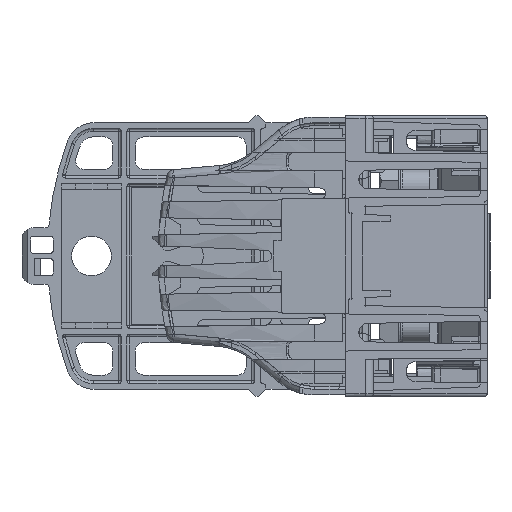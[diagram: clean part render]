
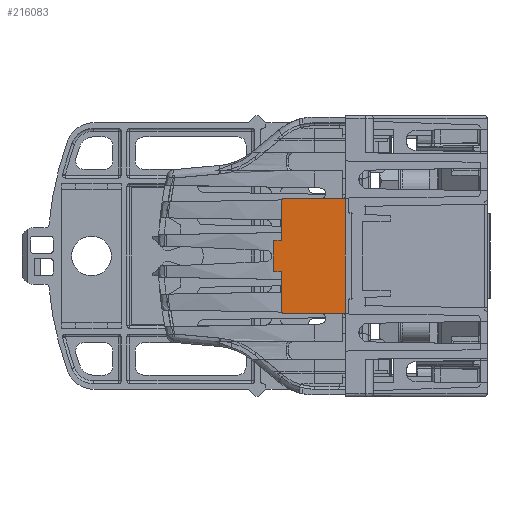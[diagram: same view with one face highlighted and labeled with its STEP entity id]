
A CAD part, left-side view. The second image highlights one B-rep face of the part: STEP entity #216083.
In plain terms, the highlighted planar face has unit normal (-1, 0, 0).
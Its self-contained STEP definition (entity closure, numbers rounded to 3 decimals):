
#64497 = CARTESIAN_POINT ( 'NONE',  ( -279.5, 22.4, -19.709 ) ) ;
#64872 = VERTEX_POINT ( 'NONE', #276277 ) ;
#64944 = VERTEX_POINT ( 'NONE', #276343 ) ;
#64959 = VERTEX_POINT ( 'NONE', #276351 ) ;
#64969 = VERTEX_POINT ( 'NONE', #276363 ) ;
#64981 = VERTEX_POINT ( 'NONE', #276374 ) ;
#65005 = VERTEX_POINT ( 'NONE', #276395 ) ;
#65012 = VERTEX_POINT ( 'NONE', #276403 ) ;
#65053 = VERTEX_POINT ( 'NONE', #276438 ) ;
#65061 = VERTEX_POINT ( 'NONE', #276445 ) ;
#65065 = VERTEX_POINT ( 'NONE', #276448 ) ;
#65425 = VERTEX_POINT ( 'NONE', #276775 ) ;
#65507 = VERTEX_POINT ( 'NONE', #276847 ) ;
#80512 = ORIENTED_EDGE ( 'NONE', *, *, #211720, .F. ) ;
#80514 = ORIENTED_EDGE ( 'NONE', *, *, #211724, .T. ) ;
#80518 = ORIENTED_EDGE ( 'NONE', *, *, #211728, .T. ) ;
#80523 = ORIENTED_EDGE ( 'NONE', *, *, #211731, .T. ) ;
#80527 = ORIENTED_EDGE ( 'NONE', *, *, #301927, .F. ) ;
#80531 = ORIENTED_EDGE ( 'NONE', *, *, #211733, .T. ) ;
#80532 = ORIENTED_EDGE ( 'NONE', *, *, #211738, .F. ) ;
#80535 = ORIENTED_EDGE ( 'NONE', *, *, #211742, .T. ) ;
#80538 = ORIENTED_EDGE ( 'NONE', *, *, #293330, .F. ) ;
#80542 = ORIENTED_EDGE ( 'NONE', *, *, #211746, .F. ) ;
#80545 = ORIENTED_EDGE ( 'NONE', *, *, #211750, .T. ) ;
#80549 = ORIENTED_EDGE ( 'NONE', *, *, #211754, .F. ) ;
#80552 = ORIENTED_EDGE ( 'NONE', *, *, #211756, .T. ) ;
#80555 = ORIENTED_EDGE ( 'NONE', *, *, #211760, .F. ) ;
#80560 = ORIENTED_EDGE ( 'NONE', *, *, #211764, .F. ) ;
#80563 = ORIENTED_EDGE ( 'NONE', *, *, #211767, .F. ) ;
#110236 = FACE_OUTER_BOUND ( 'NONE', #273482, .T. ) ;
#110521 = PLANE ( 'NONE',  #210840 ) ;
#110573 = CARTESIAN_POINT ( 'NONE',  ( -279.5, -50., 0. ) ) ;
#110577 = DIRECTION ( 'NONE',  ( -1., 0., 0. ) ) ;
#110582 = DIRECTION ( 'NONE',  ( 0., 0., 1. ) ) ;
#116303 = VECTOR ( 'NONE', #188468, 1000. ) ;
#134144 = VECTOR ( 'NONE', #138881, 1000. ) ;
#138875 = LINE ( 'NONE', #138878, #134144 ) ;
#138878 = CARTESIAN_POINT ( 'NONE',  ( -279.5, 0., 0. ) ) ;
#138881 = DIRECTION ( 'NONE',  ( 0., 0., -1. ) ) ;
#154008 = CARTESIAN_POINT ( 'NONE',  ( -279.5, 0., 20.896 ) ) ;
#154042 = CARTESIAN_POINT ( 'NONE',  ( -279.5, 0., -20.896 ) ) ;
#154179 = CARTESIAN_POINT ( 'NONE',  ( -279.5, 22.4, -6. ) ) ;
#188464 = LINE ( 'NONE', #188466, #116303 ) ;
#188466 = CARTESIAN_POINT ( 'NONE',  ( -279.5, 22.4, 0. ) ) ;
#188468 = DIRECTION ( 'NONE',  ( 0., 0., 1. ) ) ;
#210840 = AXIS2_PLACEMENT_3D ( 'NONE', #110573, #110577, #110582 ) ;
#211720 = EDGE_CURVE ( 'NONE', #65425, #64872, #236270, .T. ) ;
#211724 = EDGE_CURVE ( 'NONE', #65425, #65065, #229698, .T. ) ;
#211728 = EDGE_CURVE ( 'NONE', #65065, #65061, #236288, .T. ) ;
#211731 = EDGE_CURVE ( 'NONE', #65061, #278817, #229716, .T. ) ;
#211733 = EDGE_CURVE ( 'NONE', #277235, #65507, #229720, .T. ) ;
#211738 = EDGE_CURVE ( 'NONE', #65012, #65507, #236301, .T. ) ;
#211742 = EDGE_CURVE ( 'NONE', #65012, #278483, #229709, .T. ) ;
#211746 = EDGE_CURVE ( 'NONE', #64944, #278426, #229739, .T. ) ;
#211750 = EDGE_CURVE ( 'NONE', #64944, #64969, #236332, .T. ) ;
#211754 = EDGE_CURVE ( 'NONE', #65053, #64969, #229751, .T. ) ;
#211756 = EDGE_CURVE ( 'NONE', #65053, #64981, #236343, .T. ) ;
#211760 = EDGE_CURVE ( 'NONE', #64959, #64981, #229760, .T. ) ;
#211764 = EDGE_CURVE ( 'NONE', #65005, #64959, #236359, .T. ) ;
#211767 = EDGE_CURVE ( 'NONE', #64872, #65005, #229735, .T. ) ;
#216083 = ADVANCED_FACE ( 'NONE', ( #110236 ), #110521, .T. ) ;
#229692 = VECTOR ( 'NONE', #236284, 1000. ) ;
#229698 = CIRCLE ( 'NONE', #229712, 0.5 ) ;
#229706 = VECTOR ( 'NONE', #236298, 1000. ) ;
#229709 = CIRCLE ( 'NONE', #229742, 0.5 ) ;
#229712 = AXIS2_PLACEMENT_3D ( 'NONE', #236290, #236293, #236295 ) ;
#229716 = CIRCLE ( 'NONE', #229724, 0.5 ) ;
#229720 = CIRCLE ( 'NONE', #229732, 0.5 ) ;
#229724 = AXIS2_PLACEMENT_3D ( 'NONE', #236307, #236310, #236312 ) ;
#229728 = VECTOR ( 'NONE', #236329, 1000. ) ;
#229732 = AXIS2_PLACEMENT_3D ( 'NONE', #236318, #236321, #236324 ) ;
#229735 = CIRCLE ( 'NONE', #229772, 0.5 ) ;
#229739 = CIRCLE ( 'NONE', #229748, 0.5 ) ;
#229742 = AXIS2_PLACEMENT_3D ( 'NONE', #236336, #236338, #236341 ) ;
#229745 = VECTOR ( 'NONE', #236354, 1000. ) ;
#229748 = AXIS2_PLACEMENT_3D ( 'NONE', #236348, #236350, #236352 ) ;
#229751 = CIRCLE ( 'NONE', #229756, 0.5 ) ;
#229754 = VECTOR ( 'NONE', #236376, 1000. ) ;
#229756 = AXIS2_PLACEMENT_3D ( 'NONE', #236365, #236368, #236371 ) ;
#229760 = CIRCLE ( 'NONE', #229764, 0.5 ) ;
#229763 = VECTOR ( 'NONE', #236393, 1000. ) ;
#229764 = AXIS2_PLACEMENT_3D ( 'NONE', #236385, #236387, #236388 ) ;
#229772 = AXIS2_PLACEMENT_3D ( 'NONE', #236400, #236403, #236406 ) ;
#236222 = CARTESIAN_POINT ( 'NONE',  ( -279.5, 25.4, -5.5 ) ) ;
#236270 = LINE ( 'NONE', #236222, #229692 ) ;
#236282 = CARTESIAN_POINT ( 'NONE',  ( -279.5, 25.4, -5.5 ) ) ;
#236284 = DIRECTION ( 'NONE',  ( 0., 0., 1. ) ) ;
#236288 = LINE ( 'NONE', #236282, #229706 ) ;
#236290 = CARTESIAN_POINT ( 'NONE',  ( -279.5, 24.9, -5. ) ) ;
#236293 = DIRECTION ( 'NONE',  ( -1., 0., 0. ) ) ;
#236295 = DIRECTION ( 'NONE',  ( 0., 0., 1. ) ) ;
#236298 = DIRECTION ( 'NONE',  ( 0., -1., 0. ) ) ;
#236301 = LINE ( 'NONE', #236304, #229728 ) ;
#236304 = CARTESIAN_POINT ( 'NONE',  ( -279.5, 0., -20.4 ) ) ;
#236307 = CARTESIAN_POINT ( 'NONE',  ( -279.5, 22.9, -6. ) ) ;
#236310 = DIRECTION ( 'NONE',  ( 1., 0., 0. ) ) ;
#236312 = DIRECTION ( 'NONE',  ( 0., 0., 1. ) ) ;
#236318 = CARTESIAN_POINT ( 'NONE',  ( -279.5, 21.9, -19.709 ) ) ;
#236321 = DIRECTION ( 'NONE',  ( -1., 0., 0. ) ) ;
#236324 = DIRECTION ( 'NONE',  ( 0., 0., 1. ) ) ;
#236329 = DIRECTION ( 'NONE',  ( 0., 1., 0.009 ) ) ;
#236332 = LINE ( 'NONE', #236335, #229745 ) ;
#236335 = CARTESIAN_POINT ( 'NONE',  ( -279.5, 0., 20.4 ) ) ;
#236336 = CARTESIAN_POINT ( 'NONE',  ( -279.5, 0.5, -20.896 ) ) ;
#236338 = DIRECTION ( 'NONE',  ( 1., 0., 0. ) ) ;
#236341 = DIRECTION ( 'NONE',  ( 0., 0., 1. ) ) ;
#236343 = LINE ( 'NONE', #236345, #229754 ) ;
#236345 = CARTESIAN_POINT ( 'NONE',  ( -279.5, 22.4, 0. ) ) ;
#236348 = CARTESIAN_POINT ( 'NONE',  ( -279.5, 0.5, 20.896 ) ) ;
#236350 = DIRECTION ( 'NONE',  ( -1., 0., 0. ) ) ;
#236352 = DIRECTION ( 'NONE',  ( 0., 0., -1. ) ) ;
#236354 = DIRECTION ( 'NONE',  ( 0., 1., -0.009 ) ) ;
#236359 = LINE ( 'NONE', #236363, #229763 ) ;
#236363 = CARTESIAN_POINT ( 'NONE',  ( -279.5, 25.4, 5.5 ) ) ;
#236365 = CARTESIAN_POINT ( 'NONE',  ( -279.5, 21.9, 19.709 ) ) ;
#236368 = DIRECTION ( 'NONE',  ( 1., 0., 0. ) ) ;
#236371 = DIRECTION ( 'NONE',  ( 0., 0., -1. ) ) ;
#236376 = DIRECTION ( 'NONE',  ( 0., 0., -1. ) ) ;
#236385 = CARTESIAN_POINT ( 'NONE',  ( -279.5, 22.9, 6. ) ) ;
#236387 = DIRECTION ( 'NONE',  ( -1., 0., 0. ) ) ;
#236388 = DIRECTION ( 'NONE',  ( 0., 0., -1. ) ) ;
#236393 = DIRECTION ( 'NONE',  ( 0., -1., 0. ) ) ;
#236400 = CARTESIAN_POINT ( 'NONE',  ( -279.5, 24.9, 5. ) ) ;
#236403 = DIRECTION ( 'NONE',  ( 1., 0., 0. ) ) ;
#236406 = DIRECTION ( 'NONE',  ( 0., 0., -1. ) ) ;
#273482 = EDGE_LOOP ( 'NONE', ( #80512, #80514, #80518, #80523, #80527, #80531, #80532, #80535, #80538, #80542, #80545, #80549, #80552, #80555, #80560, #80563 ) ) ;
#276277 = CARTESIAN_POINT ( 'NONE',  ( -279.5, 25.4, 5. ) ) ;
#276343 = CARTESIAN_POINT ( 'NONE',  ( -279.5, 0.496, 20.396 ) ) ;
#276351 = CARTESIAN_POINT ( 'NONE',  ( -279.5, 22.9, 5.5 ) ) ;
#276363 = CARTESIAN_POINT ( 'NONE',  ( -279.5, 21.904, 20.209 ) ) ;
#276374 = CARTESIAN_POINT ( 'NONE',  ( -279.5, 22.4, 6. ) ) ;
#276395 = CARTESIAN_POINT ( 'NONE',  ( -279.5, 24.9, 5.5 ) ) ;
#276403 = CARTESIAN_POINT ( 'NONE',  ( -279.5, 0.496, -20.396 ) ) ;
#276438 = CARTESIAN_POINT ( 'NONE',  ( -279.5, 22.4, 19.709 ) ) ;
#276445 = CARTESIAN_POINT ( 'NONE',  ( -279.5, 22.9, -5.5 ) ) ;
#276448 = CARTESIAN_POINT ( 'NONE',  ( -279.5, 24.9, -5.5 ) ) ;
#276775 = CARTESIAN_POINT ( 'NONE',  ( -279.5, 25.4, -5. ) ) ;
#276847 = CARTESIAN_POINT ( 'NONE',  ( -279.5, 21.904, -20.209 ) ) ;
#277235 = VERTEX_POINT ( 'NONE', #64497 ) ;
#278426 = VERTEX_POINT ( 'NONE', #154008 ) ;
#278483 = VERTEX_POINT ( 'NONE', #154042 ) ;
#278817 = VERTEX_POINT ( 'NONE', #154179 ) ;
#293330 = EDGE_CURVE ( 'NONE', #278426, #278483, #138875, .T. ) ;
#301927 = EDGE_CURVE ( 'NONE', #277235, #278817, #188464, .T. ) ;
